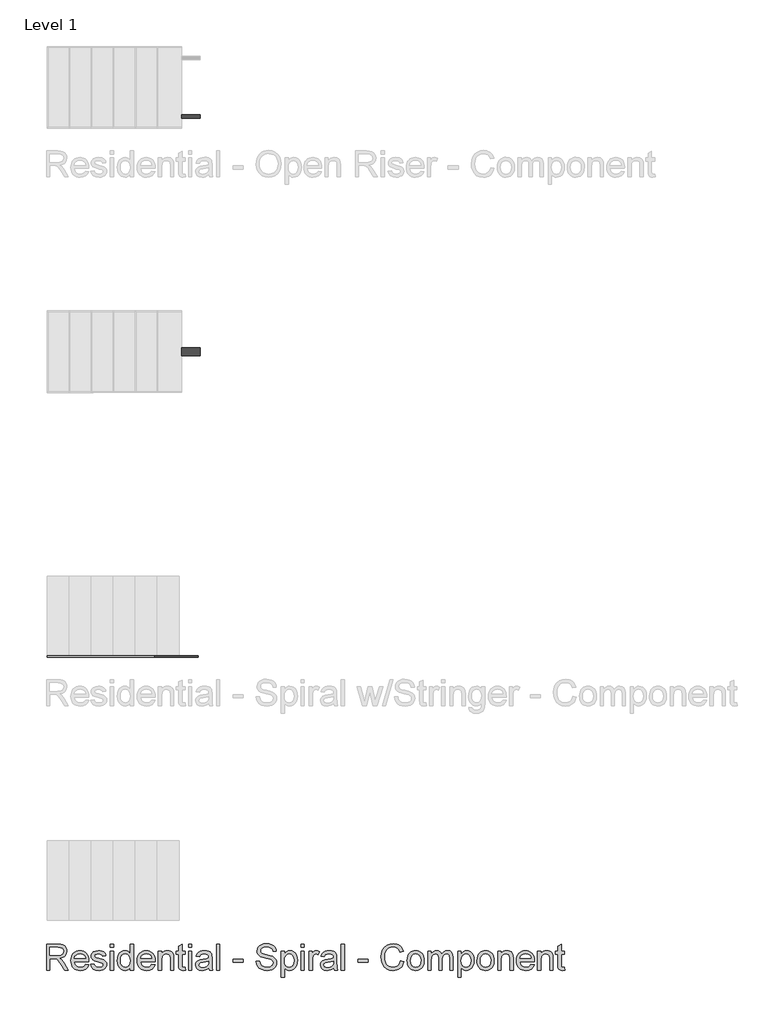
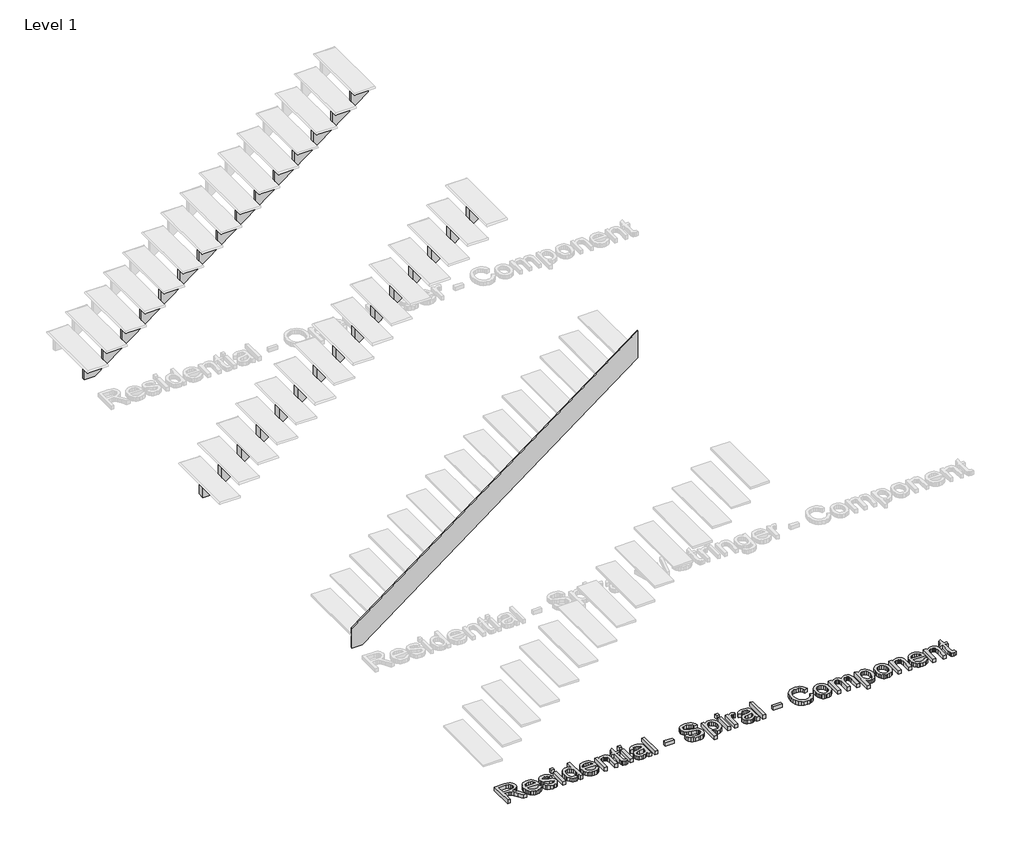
# One storey, part 3 of 15: 3 members, 1 proxy.
"""IFC4 building model written with IfcOpenShell, lengths in millimetres."""

from ifc_helpers import new_model, si_unit, frame, origin, origin_with_axes, place, context, project, spatial, polyline, outline, extrude, element, save

model = new_model("IFC4")

# Units and contexts
model_context = context("Model", 3, world=origin())
ifc_project = project(units=[si_unit("LENGTHUNIT", "METRE", prefix="MILLI")], contexts=[model_context])

# Site, building, storey
site = spatial("IfcSite", under=ifc_project)
building = spatial("IfcBuilding", under=site)
storey = spatial("IfcBuildingStorey", under=building, Name="Level 1", Elevation=0.0)

# Proxy
placement = place(None, origin())
element("IfcBuildingElementProxy", 1, Name="12\" Arial", ObjectType="12\" Arial", at=placement, inside=storey, context=model_context, shape_type="SweptSolid", body=[
    extrude(outline(polyline([(-27238.310174, -17955.1232123), (-27238.310174, -17655.012443), (-27108.9899817, -17655.012443), (-27074.2328904, -17657.0365055), (-27048.9458471, -17663.108693), (-27030.4636837, -17674.3188854), (-27016.1212317, -17691.7569623), (-27006.9167846, -17713.380544), (-27003.8486356, -17737.1472507), (-27008.9316885, -17766.7113854), (-27024.1808471, -17791.219943), (-27035.7321993, -17801.2074551), (-27050.0540442, -17809.1892219), (-27087.0092125, -17819.13552), (-27065.6878664, -17835.1814815), (-27035.2811356, -17873.7943661), (-26985.238251, -17955.1232123), (-27028.8334433, -17955.1232123), (-27067.8859433, -17892.9176354), (-27096.0945971, -17851.7403277), (-27115.913924, -17832.2873469), (-27133.7549817, -17825.1435969), (-27155.5159433, -17823.8247507), (-27200.7963279, -17823.8247507), (-27200.7963279, -17955.1232123), (-27238.310174, -17955.1232123)]), holes=[polyline([(-27200.7963279, -17786.3109046), (-27116.8297894, -17786.3109046), (-27092.7150539, -17784.9828998), (-27074.003924, -17780.9988854), (-27059.9179144, -17774.0932604), (-27049.6785394, -17764.0004238), (-27043.4414962, -17751.7919382), (-27041.3624817, -17738.5393661), (-27045.3281789, -17720.2403757), (-27057.2252702, -17705.494943), (-27077.6948615, -17695.7684527), (-27107.3780587, -17692.5262892), (-27200.7963279, -17692.5262892), (-27200.7963279, -17786.3109046)])]), origin_with_axes(), (0.0, 0.0, 1.0), 50.8),
    extrude(outline(polyline([(-26788.5836356, -17889.4739815), (-26751.8024817, -17894.1632123), (-26765.0550539, -17921.8772988), (-26786.2023856, -17942.5941738), (-26814.7682269, -17955.5078757), (-26850.2763279, -17959.812443), (-26873.5530466, -17957.955526), (-26894.2928183, -17952.3847748), (-26912.4956428, -17943.1001894), (-26928.1615202, -17930.10177), (-26940.7592486, -17913.7512832), (-26949.757626, -17894.4104959), (-26955.1566524, -17872.0794082), (-26956.9563279, -17846.75802), (-26955.1383351, -17820.5780079), (-26949.6843567, -17797.5027796), (-26940.5943928, -17777.5323349), (-26927.8684433, -17760.6666738), (-26912.2437798, -17747.2675632), (-26894.457674, -17737.69677), (-26874.510126, -17731.954294), (-26852.4011356, -17730.0401354), (-26831.0042305, -17731.9497147), (-26811.6542846, -17737.6784527), (-26794.3512978, -17747.2263493), (-26779.0952702, -17760.5934046), (-26766.6417906, -17777.422431), (-26757.7464481, -17797.3562411), (-26752.4092426, -17820.3948349), (-26750.630174, -17846.5382123), (-26750.8499817, -17856.6493661), (-26919.4424817, -17856.6493661), (-26912.9489962, -17884.7297988), (-26897.8646933, -17905.3734046), (-26876.0945731, -17918.0672988), (-26849.5436356, -17922.2985969), (-26829.5777702, -17920.338645), (-26812.7624817, -17914.4587892), (-26799.0977702, -17904.2926834), (-26788.5836356, -17889.4739815)]), holes=[polyline([(-26919.4424817, -17819.13552), (-26788.1440202, -17819.13552), (-26793.2179144, -17799.316193), (-26803.1642125, -17785.1385969), (-26825.0350779, -17771.9501354), (-26852.547674, -17767.5539815), (-26877.8347173, -17771.0617459), (-26898.743924, -17781.5850392), (-26913.2787077, -17797.9881882), (-26919.4424817, -17819.13552)])]), origin_with_axes(), (0.0, 0.0, 1.0), 50.8),
    extrude(outline(polyline([(-26727.1840202, -17889.4739815), (-26689.670174, -17884.7847507), (-26683.7536837, -17900.8307123), (-26672.3053664, -17912.6270584), (-26655.2519529, -17919.8807123), (-26632.520174, -17922.2985969), (-26610.0631548, -17920.0822027), (-26594.2736356, -17913.43302), (-26584.9318087, -17903.7981161), (-26581.8178664, -17892.6245584), (-26584.950126, -17883.0629238), (-26594.3469048, -17875.7726354), (-26632.9597894, -17865.0753277), (-26689.4503664, -17846.7213854), (-26703.747025, -17837.4986209), (-26714.1054625, -17825.2901354), (-26720.3974577, -17810.8744142), (-26722.4947894, -17795.029943), (-26720.8095971, -17780.4951594), (-26715.7540202, -17767.0777315), (-26707.7859914, -17755.3088613), (-26697.3634433, -17745.7197507), (-26673.5143087, -17734.6194623), (-26641.2392125, -17730.0401354), (-26616.8222414, -17731.8810248), (-26595.5924817, -17737.403693), (-26578.520751, -17746.0677796), (-26566.5778664, -17757.3329238), (-26558.6647894, -17772.0325632), (-26553.6824817, -17791.0001354), (-26591.1963279, -17795.6893661), (-26595.9313519, -17783.8838613), (-26605.3006548, -17774.9908084), (-26619.3958231, -17769.4131882), (-26638.3084433, -17767.5539815), (-26659.8495971, -17769.3307604), (-26674.2103664, -17774.6610969), (-26682.288299, -17782.3543661), (-26684.9809433, -17791.219943), (-26680.5115202, -17802.1370584), (-26666.5170971, -17810.4164815), (-26634.2053664, -17818.4028277), (-26579.1435394, -17836.0607123), (-26564.5995971, -17844.5049911), (-26553.5725779, -17856.0632123), (-26546.6211596, -17870.7720104), (-26544.3040202, -17888.66802), (-26547.0241404, -17907.1685007), (-26555.184501, -17924.569943), (-26568.4737077, -17939.5077075), (-26586.5803664, -17950.6171546), (-26608.4512317, -17957.5136209), (-26633.0330587, -17959.812443), (-26670.858299, -17955.3796546), (-26698.4624817, -17942.0812892), (-26716.8896933, -17920.0638854), (-26727.1840202, -17889.4739815)])), origin_with_axes(), (0.0, 0.0, 1.0), 50.8),
    extrude(outline(polyline([(-26502.1009433, -17955.1232123), (-26502.1009433, -17734.7293661), (-26464.5870971, -17734.7293661), (-26464.5870971, -17955.1232123), (-26502.1009433, -17955.1232123)])), origin_with_axes(), (0.0, 0.0, 1.0), 50.8),
    extrude(outline(polyline([(-26502.1009433, -17692.5262892), (-26502.1009433, -17655.012443), (-26464.5870971, -17655.012443), (-26464.5870971, -17692.5262892), (-26502.1009433, -17692.5262892)])), origin_with_axes(), (0.0, 0.0, 1.0), 50.8),
    extrude(outline(polyline([(-26272.3286356, -17955.1232123), (-26272.3286356, -17919.7341738), (-26283.5525659, -17937.2684166), (-26297.1485875, -17949.7928757), (-26313.1167005, -17957.3075512), (-26331.4569048, -17959.812443), (-26355.7090202, -17956.1856161), (-26377.9095971, -17945.3051354), (-26396.7031548, -17927.931169), (-26410.7342125, -17904.8238854), (-26419.4715683, -17876.9174671), (-26422.3840202, -17845.1460969), (-26419.7005346, -17813.7685488), (-26411.6500779, -17785.4316738), (-26398.2418087, -17761.747395), (-26379.4848856, -17744.3276354), (-26356.7989, -17733.6120104), (-26331.6034433, -17730.0401354), (-26313.249501, -17732.5953998), (-26297.0203664, -17740.261193), (-26283.2640683, -17752.0117459), (-26272.3286356, -17766.8212892), (-26272.3286356, -17655.012443), (-26234.8147894, -17655.012443), (-26234.8147894, -17955.1232123), (-26272.3286356, -17955.1232123)]), holes=[polyline([(-26384.870174, -17844.9995584), (-26380.638876, -17878.9323709), (-26367.9449817, -17903.0654238), (-26349.4994529, -17917.4903036), (-26328.013251, -17922.2985969), (-26306.5362077, -17917.7101113), (-26288.5577702, -17903.9446546), (-26276.3859192, -17880.7457844), (-26272.3286356, -17847.8570584), (-26276.4591885, -17811.9001834), (-26288.8508471, -17786.9703277), (-26307.2872173, -17772.408068), (-26329.5519048, -17767.5539815), (-26351.2579144, -17772.2157363), (-26369.0440202, -17786.2010007), (-26380.9136356, -17810.2241498), (-26384.870174, -17844.9995584)])]), origin_with_axes(), (0.0, 0.0, 1.0), 50.8),
    extrude(outline(polyline([(-26024.2390202, -17889.4739815), (-25987.4578664, -17894.1632123), (-26000.7104385, -17921.8772988), (-26021.8577702, -17942.5941738), (-26050.4236115, -17955.5078757), (-26085.9317125, -17959.812443), (-26109.2084313, -17957.955526), (-26129.9482029, -17952.3847748), (-26148.1510274, -17943.1001894), (-26163.8169048, -17930.10177), (-26176.4146332, -17913.7512832), (-26185.4130106, -17894.4104959), (-26190.812037, -17872.0794082), (-26192.6117125, -17846.75802), (-26190.7937197, -17820.5780079), (-26185.3397414, -17797.5027796), (-26176.2497774, -17777.5323349), (-26163.5238279, -17760.6666738), (-26147.8991644, -17747.2675632), (-26130.1130587, -17737.69677), (-26110.1655106, -17731.954294), (-26088.0565202, -17730.0401354), (-26066.6596152, -17731.9497147), (-26047.3096692, -17737.6784527), (-26030.0066825, -17747.2263493), (-26014.7506548, -17760.5934046), (-26002.2971753, -17777.422431), (-25993.4018327, -17797.3562411), (-25988.0646272, -17820.3948349), (-25986.2855587, -17846.5382123), (-25986.5053664, -17856.6493661), (-26155.0978664, -17856.6493661), (-26148.6043808, -17884.7297988), (-26133.5200779, -17905.3734046), (-26111.7499577, -17918.0672988), (-26085.1990202, -17922.2985969), (-26065.2331548, -17920.338645), (-26048.4178664, -17914.4587892), (-26034.7531548, -17904.2926834), (-26024.2390202, -17889.4739815)]), holes=[polyline([(-26155.0978664, -17819.13552), (-26023.7994048, -17819.13552), (-26028.873299, -17799.316193), (-26038.8195971, -17785.1385969), (-26060.6904625, -17771.9501354), (-26088.2030587, -17767.5539815), (-26113.4901019, -17771.0617459), (-26134.3993087, -17781.5850392), (-26148.9340923, -17797.9881882), (-26155.0978664, -17819.13552)])]), origin_with_axes(), (0.0, 0.0, 1.0), 50.8),
    extrude(outline(polyline([(-25948.7717125, -17955.1232123), (-25948.7717125, -17734.7293661), (-25911.2578664, -17734.7293661), (-25911.2578664, -17765.502443), (-25898.2251019, -17749.9876834), (-25882.5729625, -17738.9057123), (-25864.3014481, -17732.2565296), (-25843.4105587, -17730.0401354), (-25824.9192365, -17731.8260729), (-25807.9848856, -17737.1838854), (-25793.8622414, -17745.4449911), (-25783.8060394, -17755.9408084), (-25772.5592125, -17783.5266738), (-25770.5809433, -17819.794943), (-25770.5809433, -17955.1232123), (-25808.0947894, -17955.1232123), (-25808.0947894, -17824.85052), (-25812.417674, -17791.6595584), (-25818.398275, -17781.7773709), (-25827.6943087, -17774.1115777), (-25839.6097173, -17769.1933805), (-25853.4484433, -17767.5539815), (-25875.4200539, -17771.2357604), (-25894.149501, -17782.2810969), (-25901.6344108, -17791.2977916), (-25906.980775, -17803.6207604), (-25911.2578664, -17838.18552), (-25911.2578664, -17955.1232123), (-25948.7717125, -17955.1232123)])), origin_with_axes(), (0.0, 0.0, 1.0), 50.8),
    extrude(outline(polyline([(-25639.2824817, -17923.8372507), (-25634.593251, -17956.2222507), (-25662.6553664, -17959.812443), (-25680.6612798, -17958.2554719), (-25694.0878664, -17953.5845584), (-25703.5762317, -17946.3858565), (-25709.7674817, -17937.24552), (-25713.174501, -17921.5475873), (-25714.310174, -17894.6760969), (-25714.310174, -17772.2432123), (-25742.4455587, -17772.2432123), (-25742.4455587, -17734.7293661), (-25714.310174, -17734.7293661), (-25714.310174, -17681.1695584), (-25676.7963279, -17659.11552), (-25676.7963279, -17734.7293661), (-25639.2824817, -17734.7293661), (-25639.2824817, -17772.2432123), (-25676.7963279, -17772.2432123), (-25676.7963279, -17893.5770584), (-25674.8180587, -17912.9201354), (-25668.407001, -17919.7708084), (-25655.6215202, -17922.2985969), (-25639.2824817, -17923.8372507)])), origin_with_axes(), (0.0, 0.0, 1.0), 50.8),
    extrude(outline(polyline([(-25601.7686356, -17955.1232123), (-25601.7686356, -17734.7293661), (-25564.2547894, -17734.7293661), (-25564.2547894, -17955.1232123), (-25601.7686356, -17955.1232123)])), origin_with_axes(), (0.0, 0.0, 1.0), 50.8),
    extrude(outline(polyline([(-25601.7686356, -17692.5262892), (-25601.7686356, -17655.012443), (-25564.2547894, -17655.012443), (-25564.2547894, -17692.5262892), (-25601.7686356, -17692.5262892)])), origin_with_axes(), (0.0, 0.0, 1.0), 50.8),
    extrude(outline(polyline([(-25367.3070971, -17926.9878277), (-25385.2305827, -17942.3560488), (-25403.6852702, -17952.4122507), (-25423.0924577, -17957.962395), (-25443.8734433, -17959.812443), (-25475.2235154, -17955.3613373), (-25498.3491164, -17942.00802), (-25512.6091404, -17921.7307604), (-25517.3624817, -17896.5078277), (-25515.5673856, -17880.9564334), (-25510.1820971, -17866.8337892), (-25501.8751981, -17854.7443661), (-25491.3152702, -17845.2926354), (-25465.048251, -17832.9834046), (-25432.5899817, -17827.3416738), (-25394.2335394, -17821.4068661), (-25367.5269048, -17814.4462892), (-25367.3070971, -17806.0935969), (-25369.8898375, -17789.3515777), (-25377.6380587, -17778.3978277), (-25394.9662317, -17770.264943), (-25419.1084433, -17767.5539815), (-25441.4555587, -17769.3582363), (-25457.0619048, -17774.7710007), (-25467.7042606, -17784.7814094), (-25475.1594048, -17800.3785969), (-25512.673251, -17795.6893661), (-25506.1614481, -17775.1739815), (-25496.4441164, -17759.0547507), (-25482.614549, -17746.7272027), (-25463.7660394, -17737.5868661), (-25440.7137077, -17731.926818), (-25414.272674, -17730.0401354), (-25388.9123615, -17731.7070104), (-25368.8091164, -17736.7076354), (-25353.6515442, -17744.2268902), (-25343.128251, -17753.4496546), (-25336.1493567, -17764.8521786), (-25331.6249817, -17778.9107123), (-25329.793251, -17811.7353277), (-25329.793251, -17858.4078277), (-25327.888251, -17923.5808084), (-25320.4147894, -17955.1232123), (-25357.9286356, -17955.1232123), (-25367.3070971, -17926.9878277)]), holes=[polyline([(-25367.3070971, -17851.9601354), (-25427.8274817, -17863.4634046), (-25460.1025779, -17869.5447507), (-25474.7197894, -17879.4360969), (-25479.8486356, -17893.8701354), (-25477.0552462, -17905.0253757), (-25468.6750779, -17914.1657123), (-25454.8913039, -17920.2653757), (-25435.8870971, -17922.2985969), (-25415.7380587, -17920.0547267), (-25397.9336356, -17913.3231161), (-25383.4995971, -17903.404294), (-25373.4617125, -17891.5987892), (-25369.0106067, -17879.4360969), (-25367.5269048, -17862.5841738), (-25367.3070971, -17851.9601354)])]), origin_with_axes(), (0.0, 0.0, 1.0), 50.8),
    extrude(outline(polyline([(-25278.2117125, -17955.1232123), (-25278.2117125, -17655.012443), (-25240.6978664, -17655.012443), (-25240.6978664, -17955.1232123), (-25278.2117125, -17955.1232123)])), origin_with_axes(), (0.0, 0.0, 1.0), 50.8),
    extrude(outline(polyline([(-25085.953251, -17866.0278277), (-25085.953251, -17828.5139815), (-24968.7224817, -17828.5139815), (-24968.7224817, -17866.0278277), (-25085.953251, -17866.0278277)])), origin_with_axes(), (0.0, 0.0, 1.0), 50.8),
    extrude(outline(polyline([(-24818.6670971, -17851.9601354), (-24781.153251, -17851.9601354), (-24776.8486837, -17872.7777555), (-24769.0638279, -17889.5106161), (-24756.9194529, -17902.7906642), (-24739.5363279, -17913.2498469), (-24718.288251, -17920.0364094), (-24694.5490202, -17922.2985969), (-24673.6489721, -17920.5859286), (-24655.3499817, -17915.4479238), (-24640.5221212, -17907.3150392), (-24630.0354625, -17896.6177315), (-24623.7984192, -17884.3359767), (-24621.7194048, -17871.4497507), (-24623.276376, -17858.8932363), (-24627.9472894, -17848.0402315), (-24637.4356548, -17838.7808325), (-24653.4449817, -17831.0051354), (-24708.0671933, -17816.6810007), (-24743.9233231, -17807.201794), (-24766.865751, -17798.18052), (-24785.5402462, -17785.559895), (-24798.774501, -17770.264943), (-24806.6601019, -17752.6253757), (-24809.2886356, -17732.9709046), (-24806.0373135, -17710.999294), (-24796.2833471, -17690.5113854), (-24780.2831789, -17673.1465777), (-24758.293251, -17660.54427), (-24731.8980106, -17652.8784767), (-24702.6819048, -17650.3232123), (-24671.0295971, -17652.9975392), (-24643.3338279, -17661.02052), (-24620.5837317, -17674.2272988), (-24603.7684433, -17692.45302), (-24593.1260875, -17714.5620104), (-24588.8947894, -17739.4185969), (-24626.4086356, -17739.4185969), (-24633.2959433, -17717.0348469), (-24647.6567125, -17700.8789815), (-24670.0954144, -17691.0975392), (-24701.2165202, -17687.8370584), (-24733.0703183, -17691.0609046), (-24754.9228664, -17700.732443), (-24767.5618087, -17714.9649911), (-24771.7747894, -17731.8718661), (-24768.7890683, -17746.2875873), (-24759.8319048, -17757.882443), (-24738.6570971, -17768.2500392), (-24698.5788279, -17778.837443), (-24657.2183471, -17788.893645), (-24632.1969048, -17797.6676354), (-24610.8114481, -17811.277395), (-24595.892001, -17828.0743661), (-24587.1271692, -17847.8753757), (-24584.2055587, -17870.4972507), (-24587.5667846, -17893.6228517), (-24597.6504625, -17915.3746546), (-24614.0444529, -17934.094943), (-24636.3366164, -17948.1260007), (-24663.1439962, -17956.8908325), (-24693.0836356, -17959.812443), (-24729.8373135, -17956.6618661), (-24760.0883471, -17947.2101354), (-24784.1847654, -17931.4206161), (-24802.4745971, -17909.2566738), (-24814.2159914, -17882.2569623), (-24818.6670971, -17851.9601354)])), origin_with_axes(), (0.0, 0.0, 1.0), 50.8),
    extrude(outline(polyline([(-24532.6240202, -18039.5293661), (-24532.6240202, -17734.7293661), (-24495.110174, -17734.7293661), (-24495.110174, -17771.51052), (-24482.8742125, -17753.3672267), (-24469.1728664, -17740.4077315), (-24453.200174, -17732.6320344), (-24434.150174, -17730.0401354), (-24408.7807029, -17733.6669623), (-24386.5984433, -17744.547443), (-24368.5375779, -17762.0221546), (-24355.5322894, -17785.4316738), (-24347.6741644, -17813.0724911), (-24345.0547894, -17843.2410969), (-24348.0130346, -17875.3238613), (-24356.8877702, -17904.0179238), (-24371.3950779, -17927.8670584), (-24391.2510394, -17945.4150392), (-24414.3766404, -17956.2130921), (-24438.6928664, -17959.812443), (-24455.9386115, -17957.4037171), (-24471.3343087, -17950.1775392), (-24484.5136115, -17939.2695825), (-24495.110174, -17925.81552), (-24495.110174, -18039.5293661), (-24532.6240202, -18039.5293661)]), holes=[polyline([(-24495.110174, -17846.6847507), (-24491.0528904, -17880.3153277), (-24478.8810394, -17903.8347507), (-24460.9209192, -17917.6826354), (-24439.4988279, -17922.2985969), (-24417.7287077, -17917.5177796), (-24399.3106548, -17903.1753277), (-24386.7541404, -17878.7949911), (-24382.5686356, -17843.90052), (-24386.6533952, -17810.4531161), (-24398.907674, -17786.6039815), (-24416.8403183, -17772.3164815), (-24437.960174, -17767.5539815), (-24459.1624577, -17772.6187171), (-24477.782001, -17787.8129238), (-24490.7781308, -17812.6603517), (-24495.110174, -17846.6847507)])]), origin_with_axes(), (0.0, 0.0, 1.0), 50.8),
    extrude(outline(polyline([(-24302.8517125, -17955.1232123), (-24302.8517125, -17734.7293661), (-24265.3378664, -17734.7293661), (-24265.3378664, -17955.1232123), (-24302.8517125, -17955.1232123)])), origin_with_axes(), (0.0, 0.0, 1.0), 50.8),
    extrude(outline(polyline([(-24302.8517125, -17692.5262892), (-24302.8517125, -17655.012443), (-24265.3378664, -17655.012443), (-24265.3378664, -17692.5262892), (-24302.8517125, -17692.5262892)])), origin_with_axes(), (0.0, 0.0, 1.0), 50.8),
    extrude(outline(polyline([(-24209.0670971, -17955.1232123), (-24209.0670971, -17734.7293661), (-24176.2424817, -17734.7293661), (-24176.2424817, -17767.3341738), (-24164.116424, -17748.4307123), (-24152.9428664, -17737.2937892), (-24141.732674, -17731.8535488), (-24129.4967125, -17730.0401354), (-24110.8130587, -17732.93427), (-24091.8363279, -17741.6166738), (-24104.3653664, -17775.2472507), (-24117.5538279, -17769.4772988), (-24130.7422894, -17767.5539815), (-24141.9433231, -17769.4040296), (-24151.9537317, -17774.9541738), (-24160.0408231, -17783.7831161), (-24165.4719048, -17795.4695584), (-24170.0329144, -17816.4245584), (-24171.553251, -17839.2845584), (-24171.553251, -17955.1232123), (-24209.0670971, -17955.1232123)])), origin_with_axes(), (0.0, 0.0, 1.0), 50.8),
    extrude(outline(polyline([(-23927.713251, -17926.9878277), (-23945.6367365, -17942.3560488), (-23964.091424, -17952.4122507), (-23983.4986115, -17957.962395), (-24004.2795971, -17959.812443), (-24035.6296692, -17955.3613373), (-24058.7552702, -17942.00802), (-24073.0152942, -17921.7307604), (-24077.7686356, -17896.5078277), (-24075.9735394, -17880.9564334), (-24070.588251, -17866.8337892), (-24062.2813519, -17854.7443661), (-24051.721424, -17845.2926354), (-24025.4544048, -17832.9834046), (-23992.9961356, -17827.3416738), (-23954.6396933, -17821.4068661), (-23927.9330587, -17814.4462892), (-23927.713251, -17806.0935969), (-23930.2959914, -17789.3515777), (-23938.0442125, -17778.3978277), (-23955.3723856, -17770.264943), (-23979.5145971, -17767.5539815), (-24001.8617125, -17769.3582363), (-24017.4680587, -17774.7710007), (-24028.1104144, -17784.7814094), (-24035.5655587, -17800.3785969), (-24073.0794048, -17795.6893661), (-24066.5676019, -17775.1739815), (-24056.8502702, -17759.0547507), (-24043.0207029, -17746.7272027), (-24024.1721933, -17737.5868661), (-24001.1198615, -17731.926818), (-23974.6788279, -17730.0401354), (-23949.3185154, -17731.7070104), (-23929.2152702, -17736.7076354), (-23914.0576981, -17744.2268902), (-23903.5344048, -17753.4496546), (-23896.5555106, -17764.8521786), (-23892.0311356, -17778.9107123), (-23890.1994048, -17811.7353277), (-23890.1994048, -17858.4078277), (-23888.2944048, -17923.5808084), (-23880.8209433, -17955.1232123), (-23918.3347894, -17955.1232123), (-23927.713251, -17926.9878277)]), holes=[polyline([(-23927.713251, -17851.9601354), (-23988.2336356, -17863.4634046), (-24020.5087317, -17869.5447507), (-24035.1259433, -17879.4360969), (-24040.2547894, -17893.8701354), (-24037.4614, -17905.0253757), (-24029.0812317, -17914.1657123), (-24015.2974577, -17920.2653757), (-23996.293251, -17922.2985969), (-23976.1442125, -17920.0547267), (-23958.3397894, -17913.3231161), (-23943.905751, -17903.404294), (-23933.8678664, -17891.5987892), (-23929.4167606, -17879.4360969), (-23927.9330587, -17862.5841738), (-23927.713251, -17851.9601354)])]), origin_with_axes(), (0.0, 0.0, 1.0), 50.8),
    extrude(outline(polyline([(-23838.6178664, -17955.1232123), (-23838.6178664, -17655.012443), (-23801.1040202, -17655.012443), (-23801.1040202, -17955.1232123), (-23838.6178664, -17955.1232123)])), origin_with_axes(), (0.0, 0.0, 1.0), 50.8),
    extrude(outline(polyline([(-23646.3594048, -17866.0278277), (-23646.3594048, -17828.5139815), (-23529.1286356, -17828.5139815), (-23529.1286356, -17866.0278277), (-23646.3594048, -17866.0278277)])), origin_with_axes(), (0.0, 0.0, 1.0), 50.8),
    extrude(outline(polyline([(-23153.990174, -17848.4432123), (-23116.4763279, -17858.1147507), (-23123.8994168, -17881.4441317), (-23133.7861837, -17901.8290055), (-23146.1366284, -17919.2693721), (-23160.950751, -17933.7652315), (-23177.8942606, -17945.1608866), (-23196.6328664, -17953.3006402), (-23217.1665683, -17958.1844923), (-23239.4953664, -17959.812443), (-23283.0081308, -17954.8850873), (-23317.5637317, -17940.10302), (-23344.0505587, -17915.9791257), (-23363.357001, -17883.0262892), (-23375.1441885, -17844.2851834), (-23379.073251, -17802.7964815), (-23374.6313039, -17759.0364334), (-23361.3054625, -17721.2478277), (-23339.7917846, -17690.6304479), (-23310.7863279, -17668.3840777), (-23276.386424, -17654.8384286), (-23238.6894048, -17650.3232123), (-23197.5578904, -17656.1664334), (-23179.6641704, -17663.4704599), (-23163.5518087, -17673.6960969), (-23149.486406, -17686.5731642), (-23137.7335635, -17701.8314815), (-23121.1655587, -17739.4918661), (-23158.6794048, -17748.4307123), (-23171.6846933, -17721.0738132), (-23189.4524817, -17702.3077315), (-23212.2025779, -17691.4547267), (-23240.1547894, -17687.8370584), (-23272.3749337, -17691.8485488), (-23298.8434433, -17703.88302), (-23318.9283712, -17722.6765777), (-23331.9977702, -17746.9653277), (-23339.1689962, -17774.4229719), (-23341.5594048, -17802.7232123), (-23338.7293808, -17837.3795584), (-23330.2393087, -17867.3466738), (-23315.7686356, -17891.4797267), (-23294.9968087, -17908.6338854), (-23270.0944289, -17918.882419), (-23243.2320971, -17922.2985969), (-23211.9186596, -17917.6460007), (-23185.8256548, -17903.6882123), (-23166.1253904, -17880.57177), (-23153.990174, -17848.4432123)])), origin_with_axes(), (0.0, 0.0, 1.0), 50.8),
    extrude(outline(polyline([(-23078.9624817, -17844.9262892), (-23076.9338399, -17816.3833445), (-23070.8479144, -17791.7877796), (-23060.7047053, -17771.1395945), (-23046.5042125, -17754.4387892), (-23032.2075539, -17743.7643781), (-23016.4271933, -17736.1397988), (-22999.1631308, -17731.5650512), (-22980.4153664, -17730.0401354), (-22959.7190983, -17731.8970524), (-22941.0056789, -17737.4678036), (-22924.2751079, -17746.752389), (-22909.5273856, -17759.7508084), (-22897.4906248, -17776.0234466), (-22888.8929385, -17795.1306882), (-22883.7343267, -17817.0725332), (-22882.0147894, -17841.8489815), (-22885.0554625, -17879.7474911), (-22894.1774817, -17908.5972507), (-22909.1152462, -17930.2025152), (-22929.6031548, -17946.3675392), (-22953.9376981, -17956.4512171), (-22980.4153664, -17959.812443), (-23001.41387, -17957.962395), (-23020.3013039, -17952.4122507), (-23037.077668, -17943.1620104), (-23051.7429625, -17930.2116738), (-23063.6515022, -17913.7810488), (-23072.1576019, -17894.089943), (-23077.2612618, -17871.1383565), (-23078.9624817, -17844.9262892)]), holes=[polyline([(-23041.4486356, -17844.85302), (-23037.1074337, -17878.8041498), (-23024.0838279, -17902.9921546), (-23004.4843087, -17917.4719863), (-22980.4153664, -17922.2985969), (-22956.4563279, -17917.4445104), (-22936.8934433, -17902.8822507), (-22923.8698375, -17878.373693), (-22919.5286356, -17843.6807123), (-22923.8973135, -17810.7187171), (-22937.0033471, -17786.8604238), (-22956.5937077, -17772.3805921), (-22980.4153664, -17767.5539815), (-23004.4843087, -17772.3622748), (-23024.0838279, -17786.7871546), (-23037.1074337, -17810.9202075), (-23041.4486356, -17844.85302)])]), origin_with_axes(), (0.0, 0.0, 1.0), 50.8),
    extrude(outline(polyline([(-22839.8117125, -17955.1232123), (-22839.8117125, -17734.7293661), (-22802.2978664, -17734.7293661), (-22802.2978664, -17770.9976354), (-22791.0144048, -17754.338044), (-22776.5070971, -17741.2869623), (-22759.2705106, -17732.8518421), (-22739.7992125, -17730.0401354), (-22718.935799, -17732.906794), (-22702.2120971, -17741.50677), (-22689.7196933, -17755.2722267), (-22681.550174, -17773.6353277), (-22667.8763039, -17754.562431), (-22652.2791164, -17740.9389334), (-22634.7586115, -17732.7648349), (-22615.3147894, -17730.0401354), (-22587.1152942, -17734.573669), (-22566.2610394, -17748.17427), (-22553.3748135, -17771.2082844), (-22549.0794048, -17804.0420584), (-22549.0794048, -17955.1232123), (-22586.593251, -17955.1232123), (-22586.593251, -17820.1612892), (-22590.0735394, -17788.838693), (-22594.9642606, -17780.2020825), (-22602.6758471, -17773.41552), (-22612.5946692, -17769.0193661), (-22624.1070971, -17767.5539815), (-22644.43015, -17771.3090296), (-22660.9981548, -17782.5741738), (-22672.0160154, -17802.1187411), (-22675.6886356, -17830.7120584), (-22675.6886356, -17955.1232123), (-22713.2024817, -17955.1232123), (-22713.2024817, -17815.984943), (-22715.3730827, -17794.7735007), (-22721.8848856, -17779.6434046), (-22733.3423615, -17770.5763373), (-22750.3499817, -17767.5539815), (-22764.8023375, -17769.5688854), (-22778.1190202, -17775.6135969), (-22789.1094048, -17785.5415777), (-22796.5828664, -17799.2062892), (-22800.8691164, -17818.1647027), (-22802.2978664, -17843.9737892), (-22802.2978664, -17955.1232123), (-22839.8117125, -17955.1232123)])), origin_with_axes(), (0.0, 0.0, 1.0), 50.8),
    extrude(outline(polyline([(-22492.8086356, -18039.5293661), (-22492.8086356, -17734.7293661), (-22455.2947894, -17734.7293661), (-22455.2947894, -17771.51052), (-22443.0588279, -17753.3672267), (-22429.3574817, -17740.4077315), (-22413.3847894, -17732.6320344), (-22394.3347894, -17730.0401354), (-22368.9653183, -17733.6669623), (-22346.7830587, -17744.547443), (-22328.7221933, -17762.0221546), (-22315.7169048, -17785.4316738), (-22307.8587798, -17813.0724911), (-22305.2394048, -17843.2410969), (-22308.19765, -17875.3238613), (-22317.0723856, -17904.0179238), (-22331.5796933, -17927.8670584), (-22351.4356548, -17945.4150392), (-22374.5612558, -17956.2130921), (-22398.8774817, -17959.812443), (-22416.1232269, -17957.4037171), (-22431.518924, -17950.1775392), (-22444.6982269, -17939.2695825), (-22455.2947894, -17925.81552), (-22455.2947894, -18039.5293661), (-22492.8086356, -18039.5293661)]), holes=[polyline([(-22455.2947894, -17846.6847507), (-22451.2375058, -17880.3153277), (-22439.0656548, -17903.8347507), (-22421.1055346, -17917.6826354), (-22399.6834433, -17922.2985969), (-22377.9133231, -17917.5177796), (-22359.4952702, -17903.1753277), (-22346.9387558, -17878.7949911), (-22342.753251, -17843.90052), (-22346.8380106, -17810.4531161), (-22359.0922894, -17786.6039815), (-22377.0249337, -17772.3164815), (-22398.1447894, -17767.5539815), (-22419.3470731, -17772.6187171), (-22437.9666164, -17787.8129238), (-22450.9627462, -17812.6603517), (-22455.2947894, -17846.6847507)])]), origin_with_axes(), (0.0, 0.0, 1.0), 50.8),
    extrude(outline(polyline([(-22272.4147894, -17844.9262892), (-22270.3861476, -17816.3833445), (-22264.3002221, -17791.7877796), (-22254.157013, -17771.1395945), (-22239.9565202, -17754.4387892), (-22225.6598615, -17743.7643781), (-22209.879501, -17736.1397988), (-22192.6154385, -17731.5650512), (-22173.867674, -17730.0401354), (-22153.171406, -17731.8970524), (-22134.4579865, -17737.4678036), (-22117.7274156, -17746.752389), (-22102.9796933, -17759.7508084), (-22090.9429325, -17776.0234466), (-22082.3452462, -17795.1306882), (-22077.1866344, -17817.0725332), (-22075.4670971, -17841.8489815), (-22078.5077702, -17879.7474911), (-22087.6297894, -17908.5972507), (-22102.5675539, -17930.2025152), (-22123.0554625, -17946.3675392), (-22147.3900058, -17956.4512171), (-22173.867674, -17959.812443), (-22194.8661777, -17957.962395), (-22213.7536115, -17952.4122507), (-22230.5299757, -17943.1620104), (-22245.1952702, -17930.2116738), (-22257.1038099, -17913.7810488), (-22265.6099096, -17894.089943), (-22270.7135695, -17871.1383565), (-22272.4147894, -17844.9262892)]), holes=[polyline([(-22234.9009433, -17844.85302), (-22230.5597414, -17878.8041498), (-22217.5361356, -17902.9921546), (-22197.9366164, -17917.4719863), (-22173.867674, -17922.2985969), (-22149.9086356, -17917.4445104), (-22130.345751, -17902.8822507), (-22117.3221452, -17878.373693), (-22112.9809433, -17843.6807123), (-22117.3496212, -17810.7187171), (-22130.4556548, -17786.8604238), (-22150.0460154, -17772.3805921), (-22173.867674, -17767.5539815), (-22197.9366164, -17772.3622748), (-22217.5361356, -17786.7871546), (-22230.5597414, -17810.9202075), (-22234.9009433, -17844.85302)])]), origin_with_axes(), (0.0, 0.0, 1.0), 50.8),
    extrude(outline(polyline([(-22033.2640202, -17955.1232123), (-22033.2640202, -17734.7293661), (-21995.750174, -17734.7293661), (-21995.750174, -17765.502443), (-21982.7174096, -17749.9876834), (-21967.0652702, -17738.9057123), (-21948.7937558, -17732.2565296), (-21927.9028664, -17730.0401354), (-21909.4115442, -17731.8260729), (-21892.4771933, -17737.1838854), (-21878.354549, -17745.4449911), (-21868.2983471, -17755.9408084), (-21857.0515202, -17783.5266738), (-21855.073251, -17819.794943), (-21855.073251, -17955.1232123), (-21892.5870971, -17955.1232123), (-21892.5870971, -17824.85052), (-21896.9099817, -17791.6595584), (-21902.8905827, -17781.7773709), (-21912.1866164, -17774.1115777), (-21924.102025, -17769.1933805), (-21937.940751, -17767.5539815), (-21959.9123615, -17771.2357604), (-21978.6418087, -17782.2810969), (-21986.1267185, -17791.2977916), (-21991.4730827, -17803.6207604), (-21995.750174, -17838.18552), (-21995.750174, -17955.1232123), (-22033.2640202, -17955.1232123)])), origin_with_axes(), (0.0, 0.0, 1.0), 50.8),
    extrude(outline(polyline([(-21649.1867125, -17889.4739815), (-21612.4055587, -17894.1632123), (-21625.6581308, -17921.8772988), (-21646.8054625, -17942.5941738), (-21675.3713039, -17955.5078757), (-21710.8794048, -17959.812443), (-21734.1561236, -17957.955526), (-21754.8958952, -17952.3847748), (-21773.0987197, -17943.1001894), (-21788.7645971, -17930.10177), (-21801.3623255, -17913.7512832), (-21810.3607029, -17894.4104959), (-21815.7597293, -17872.0794082), (-21817.5594048, -17846.75802), (-21815.741412, -17820.5780079), (-21810.2874337, -17797.5027796), (-21801.1974697, -17777.5323349), (-21788.4715202, -17760.6666738), (-21772.8468567, -17747.2675632), (-21755.060751, -17737.69677), (-21735.1132029, -17731.954294), (-21713.0042125, -17730.0401354), (-21691.6073075, -17731.9497147), (-21672.2573615, -17737.6784527), (-21654.9543748, -17747.2263493), (-21639.6983471, -17760.5934046), (-21627.2448676, -17777.422431), (-21618.349525, -17797.3562411), (-21613.0123195, -17820.3948349), (-21611.233251, -17846.5382123), (-21611.4530587, -17856.6493661), (-21780.0455587, -17856.6493661), (-21773.5520731, -17884.7297988), (-21758.4677702, -17905.3734046), (-21736.69765, -17918.0672988), (-21710.1467125, -17922.2985969), (-21690.1808471, -17920.338645), (-21673.3655587, -17914.4587892), (-21659.7008471, -17904.2926834), (-21649.1867125, -17889.4739815)]), holes=[polyline([(-21780.0455587, -17819.13552), (-21648.7470971, -17819.13552), (-21653.8209914, -17799.316193), (-21663.7672894, -17785.1385969), (-21685.6381548, -17771.9501354), (-21713.150751, -17767.5539815), (-21738.4377942, -17771.0617459), (-21759.347001, -17781.5850392), (-21773.8817846, -17797.9881882), (-21780.0455587, -17819.13552)])]), origin_with_axes(), (0.0, 0.0, 1.0), 50.8),
    extrude(outline(polyline([(-21573.7194048, -17955.1232123), (-21573.7194048, -17734.7293661), (-21536.2055587, -17734.7293661), (-21536.2055587, -17765.502443), (-21523.1727942, -17749.9876834), (-21507.5206548, -17738.9057123), (-21489.2491404, -17732.2565296), (-21468.358251, -17730.0401354), (-21449.8669289, -17731.8260729), (-21432.9325779, -17737.1838854), (-21418.8099337, -17745.4449911), (-21408.7537317, -17755.9408084), (-21397.5069048, -17783.5266738), (-21395.5286356, -17819.794943), (-21395.5286356, -17955.1232123), (-21433.0424817, -17955.1232123), (-21433.0424817, -17824.85052), (-21437.3653664, -17791.6595584), (-21443.3459673, -17781.7773709), (-21452.642001, -17774.1115777), (-21464.5574096, -17769.1933805), (-21478.3961356, -17767.5539815), (-21500.3677462, -17771.2357604), (-21519.0971933, -17782.2810969), (-21526.5821031, -17791.2977916), (-21531.9284673, -17803.6207604), (-21536.2055587, -17838.18552), (-21536.2055587, -17955.1232123), (-21573.7194048, -17955.1232123)])), origin_with_axes(), (0.0, 0.0, 1.0), 50.8),
    extrude(outline(polyline([(-21264.230174, -17923.8372507), (-21259.5409433, -17956.2222507), (-21287.6030587, -17959.812443), (-21305.6089721, -17958.2554719), (-21319.0355587, -17953.5845584), (-21328.523924, -17946.3858565), (-21334.715174, -17937.24552), (-21338.1221933, -17921.5475873), (-21339.2578664, -17894.6760969), (-21339.2578664, -17772.2432123), (-21367.393251, -17772.2432123), (-21367.393251, -17734.7293661), (-21339.2578664, -17734.7293661), (-21339.2578664, -17681.1695584), (-21301.7440202, -17659.11552), (-21301.7440202, -17734.7293661), (-21264.230174, -17734.7293661), (-21264.230174, -17772.2432123), (-21301.7440202, -17772.2432123), (-21301.7440202, -17893.5770584), (-21299.765751, -17912.9201354), (-21293.3546933, -17919.7708084), (-21280.5692125, -17922.2985969), (-21264.230174, -17923.8372507)])), origin_with_axes(), (0.0, 0.0, 1.0), 50.8),
])

# Members
element("IfcMember", 2, at=placement, inside=storey, context=model_context, shape_type="SweptSolid", body=[
    extrude(outline(polyline([(2733.675, -23420.8481446), (2832.1, -23420.8481446), (2832.1, -23649.4481446), (2641.6, -23649.4481446), (2641.6, -23903.4481446), (2451.1, -23903.4481446), (2451.1, -24157.4481446), (2260.6, -24157.4481446), (2260.6, -24411.4481446), (2070.1, -24411.4481446), (2070.1, -24665.4481446), (1879.6, -24665.4481446), (1879.6, -24919.4481446), (1689.1, -24919.4481446), (1689.1, -25173.4481446), (1498.6, -25173.4481446), (1498.6, -25427.4481446), (1308.1, -25427.4481446), (1308.1, -25681.4481446), (1117.6, -25681.4481446), (1117.6, -25935.4481446), (927.1, -25935.4481446), (927.1, -26189.4481446), (736.6, -26189.4481446), (736.6, -26443.4481446), (546.1, -26443.4481446), (546.1, -26697.4481446), (355.6, -26697.4481446), (355.6, -26951.4481446), (165.1, -26951.4481446), (165.1, -27205.4481446), (0.0, -27205.4481446), (0.0, -27065.7481446), (2733.675, -23420.8481446)])), frame((0.0, -8134.4871906, 0.0), z_axis=(0.0, 1.0, 0.0), x_axis=(0.0, 0.0, 1.0)), (0.0, 0.0, 1.0), 38.1),
])
element("IfcMember", 3, ObjectType="Carriage - Unassigned - 3 1/2\" Width", at=placement, inside=storey, context=model_context, shape_type="SweptSolid", body=[
    extrude(outline(polyline([(2733.675, -23420.8481446), (2832.1, -23420.8481446), (2832.1, -23649.4481446), (2641.6, -23649.4481446), (2641.6, -23903.4481446), (2451.1, -23903.4481446), (2451.1, -24157.4481446), (2260.6, -24157.4481446), (2260.6, -24411.4481446), (2070.1, -24411.4481446), (2070.1, -24665.4481446), (1879.6, -24665.4481446), (1879.6, -24919.4481446), (1689.1, -24919.4481446), (1689.1, -25173.4481446), (1498.6, -25173.4481446), (1498.6, -25427.4481446), (1308.1, -25427.4481446), (1308.1, -25681.4481446), (1117.6, -25681.4481446), (1117.6, -25935.4481446), (927.1, -25935.4481446), (927.1, -26189.4481446), (736.6, -26189.4481446), (736.6, -26443.4481446), (546.1, -26443.4481446), (546.1, -26697.4481446), (355.6, -26697.4481446), (355.6, -26951.4481446), (165.1, -26951.4481446), (165.1, -27205.4481446), (0.0, -27205.4481446), (0.0, -27065.7481446), (2733.675, -23420.8481446)])), frame((0.0, -10871.3371906, 0.0), z_axis=(0.0, 1.0, 0.0), x_axis=(0.0, 0.0, 1.0)), (0.0, 0.0, 1.0), 88.9),
])
element("IfcMember", 4, ObjectType="Stringer - Unassigned - 3/4\" Width (3)", at=placement, inside=storey, context=model_context, shape_type="SweptSolid", body=[
    extrude(outline(polyline([(276.225, -27230.8481446), (0.0, -27230.8481446), (0.0, -27091.1481446), (2752.725, -23420.8481446), (3133.725, -23420.8481446), (276.225, -27230.8481446)])), frame((0.0, -14351.1371906, 0.0), z_axis=(0.0, 1.0, 0.0), x_axis=(0.0, 0.0, 1.0)), (0.0, 0.0, 1.0), 19.05),
])

save(model, "model.ifc")
